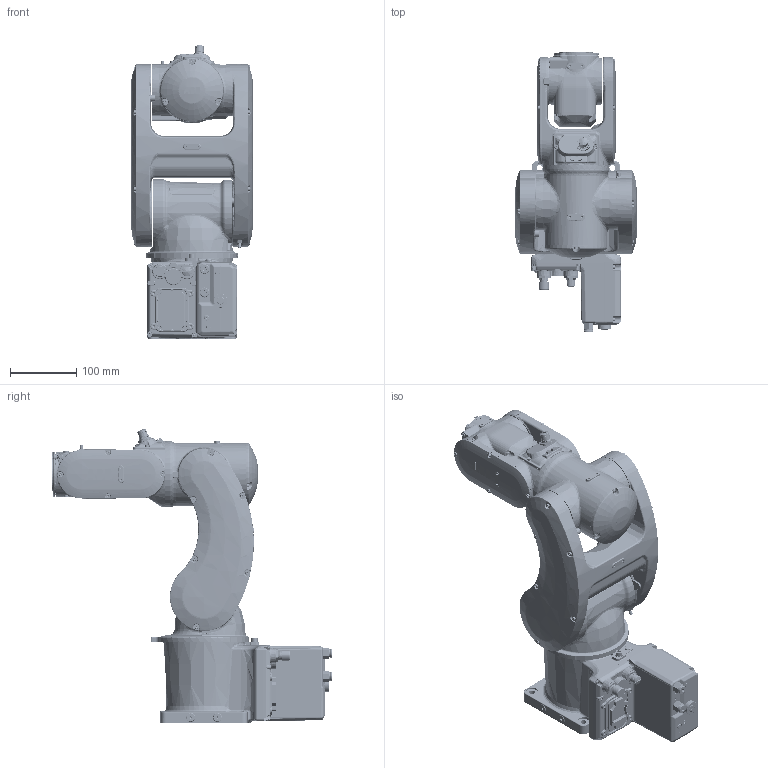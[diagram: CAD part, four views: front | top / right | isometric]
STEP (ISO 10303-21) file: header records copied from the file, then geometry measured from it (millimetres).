
FILE_DESCRIPTION (( 'STEP AP214' ), '1' );
FILE_NAME ('IRB 1010_1.5kg-370_OmniCore_rev00_STEP_c.STEP', '2022-06-24T02:48:25', ( '' ), ( '' ), 'SwSTEP 2.0', 'SolidWorks 2020', '' );
FILE_SCHEMA (( 'AUTOMOTIVE_DESIGN' ));
Length unit declared in the file: millimetre
Products named in the file (1): IRB 1010_1.5kg-370_OmniCore_rev00_STEP_c
Bounding box: 184 x 423.5 x 442.92 mm (x, y, z)
Volume: 8063318.5 mm3; surface area: 575220.7 mm2
Topology: 7 solids, 9 shells, 5644 faces, 13709 edges, 8168 vertices
Faces by surface type: plane 1810, bspline 1521, cylinder 1115, cone 544, torus 506, sphere 148
Entity records: 253542 total; most frequent: CARTESIAN_POINT 131412, ORIENTED_EDGE 26960, DIRECTION 22196, EDGE_CURVE 13480, AXIS2_PLACEMENT_3D 8602, VERTEX_POINT 8156, EDGE_LOOP 5976, FACE_OUTER_BOUND 5644
